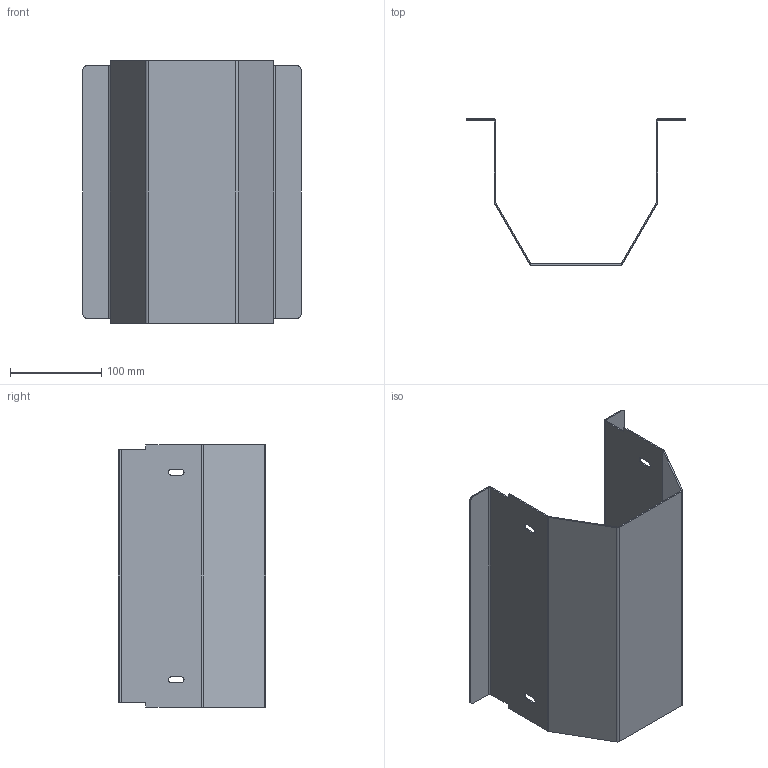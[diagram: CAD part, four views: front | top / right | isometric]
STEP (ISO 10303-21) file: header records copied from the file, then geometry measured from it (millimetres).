
FILE_DESCRIPTION (( 'STEP AP203' ), '1' );
FILE_NAME ('084.802.056.STEP', '2018-03-16T16:01:16', ( '' ), ( '' ), 'SwSTEP 2.0', 'SolidWorks 2016', '' );
FILE_SCHEMA (( 'CONFIG_CONTROL_DESIGN' ));
Length unit declared in the file: millimetre
Products named in the file (1): 084.802.056
Bounding box: 240 x 161.5 x 288 mm (x, y, z)
Volume: 213299.4 mm3; surface area: 287000.6 mm2
Topology: 1 solids, 1 shells, 74 faces, 184 edges, 112 vertices
Faces by surface type: plane 50, cylinder 24
Entity records: 2253 total; most frequent: DIRECTION 382, CARTESIAN_POINT 371, ORIENTED_EDGE 368, EDGE_CURVE 184, LINE 136, VECTOR 136, AXIS2_PLACEMENT_3D 123, VERTEX_POINT 112
